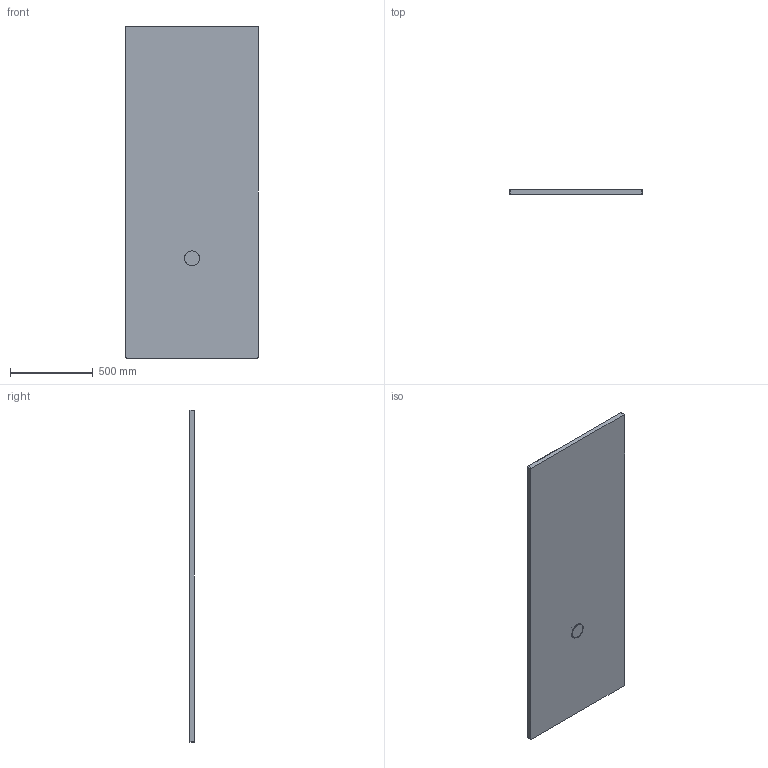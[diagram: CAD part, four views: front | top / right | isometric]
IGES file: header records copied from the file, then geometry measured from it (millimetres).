
Start section: SolidWorks IGES file using analytic representation for surfaces
Global section: file name: D:\Users\M.Szymanski\Desktop\Brodziki\Nias\B_M_NIAS_200x80x1,5.IGS; native system: SolidWorks 2011; preprocessor: SolidWorks 2011; author: M.Szymanski; date: 180222.142706; units: millimetre
Bounding box: 800 x 30 x 2000 mm (x, y, z)
Surface area: 3386755.1 mm2 (no closed solid volume)
Topology: 0 solids, 0 shells, 45 faces, 686 edges, 685 vertices
Faces by surface type: bspline 25, revolution 20
